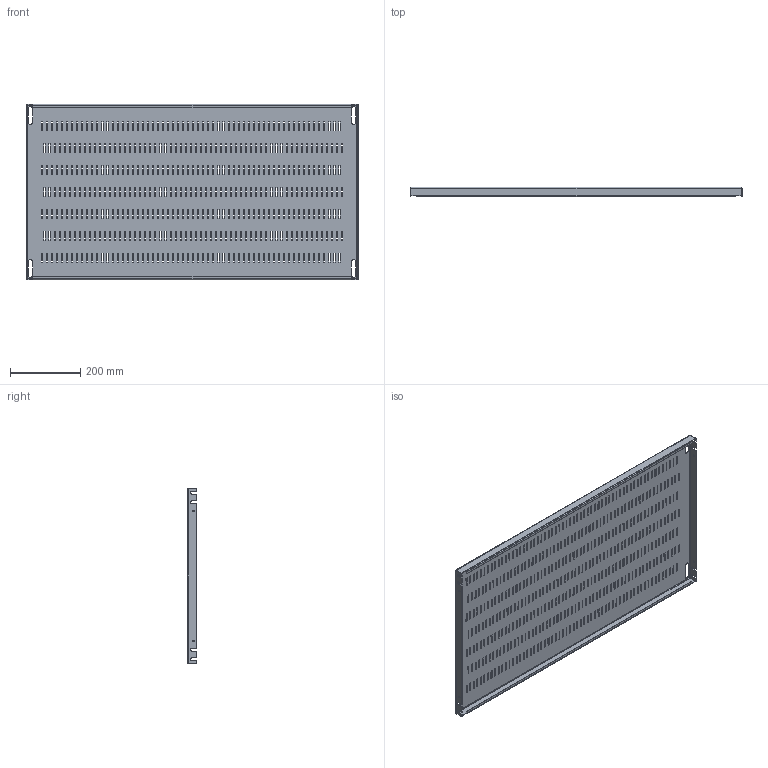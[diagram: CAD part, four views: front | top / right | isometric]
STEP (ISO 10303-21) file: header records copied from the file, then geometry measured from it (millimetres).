
FILE_DESCRIPTION (( 'STEP AP203' ), '1' );
FILE_NAME ('76510.step', '2013-04-16T09:36:00', ( '' ), ( '' ), 'SwSTEP 2.0', 'SolidWorks 2010', '' );
FILE_SCHEMA (( 'CONFIG_CONTROL_DESIGN' ));
Products named in the file (2): 76510; 87557763
Assembly tree (1 placements, depth 2):
  76510
    87557763
Bounding box: 948 x 27 x 500.41 mm (x, y, z)
Volume: 728016.9 mm3; surface area: 1080837.1 mm2
Topology: 1 solids, 1 shells, 1794 faces, 5344 edges, 3552 vertices
Faces by surface type: plane 1746, cylinder 40, bspline 8
Entity records: 61200 total; most frequent: CARTESIAN_POINT 11126, ORIENTED_EDGE 10688, DIRECTION 8960, EDGE_CURVE 5344, VECTOR 5252, LINE 5252, VERTEX_POINT 3552, EDGE_LOOP 2650
